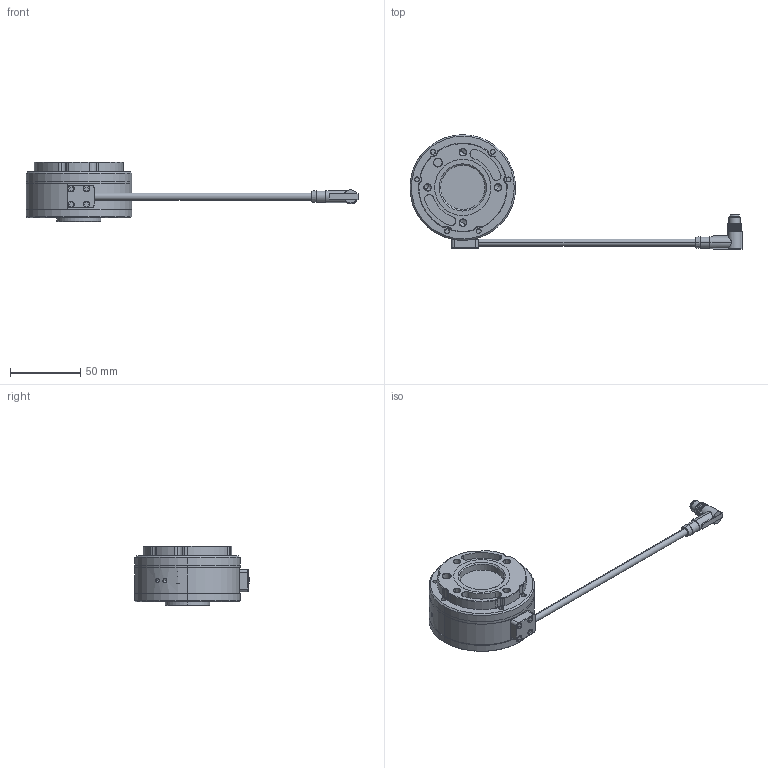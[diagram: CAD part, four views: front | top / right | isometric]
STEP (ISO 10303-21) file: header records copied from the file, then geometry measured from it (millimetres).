
FILE_DESCRIPTION(('CATIA V5 STEP'),'2;1');
FILE_NAME('D:\Desktop\CATPart11.stp','2022-06-09T04:49:20+00:00',('none'),('none'),'CATIA Version 5 Release 20 GA (IN-10)','CATIA V5 STEP AP214','none');
FILE_SCHEMA(('AUTOMOTIVE_DESIGN { 1 0 10303 214 1 1 1 1 }'));
Length unit declared in the file: millimetre
Products named in the file (1): 产品1_AllCATPart
Bounding box: 235.77 x 81.41 x 42.5 mm (x, y, z)
Volume: 123689 mm3; surface area: 51315.5 mm2
Topology: 19 solids, 32 shells, 1193 faces, 2901 edges, 1814 vertices
Faces by surface type: cylinder 534, plane 406, cone 253
Entity records: 34867 total; most frequent: CARTESIAN_POINT 7712, ORIENTED_EDGE 5702, DIRECTION 4403, EDGE_CURVE 2851, AXIS2_PLACEMENT_3D 2128, VERTEX_POINT 1814, VECTOR 1395, LINE 1395
